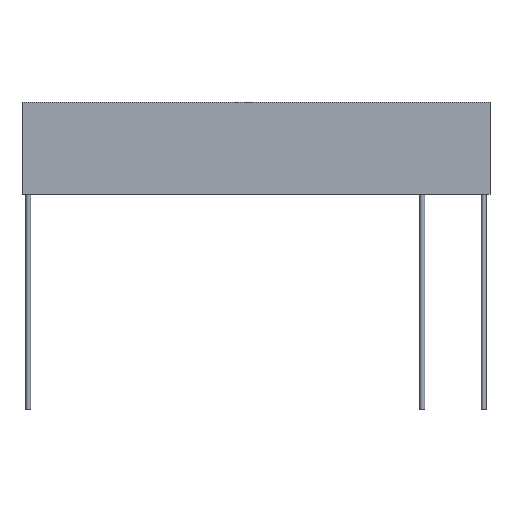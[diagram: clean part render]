
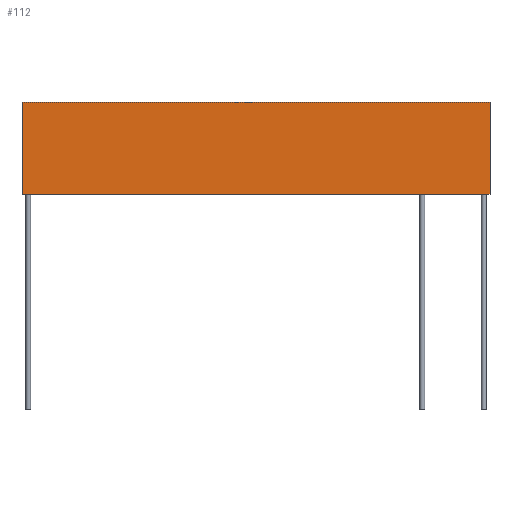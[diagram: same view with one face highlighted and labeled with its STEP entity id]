
A CAD part, front view. The second image highlights one B-rep face of the part: STEP entity #112.
In plain terms, the highlighted planar face has unit normal (0, -1, 0).
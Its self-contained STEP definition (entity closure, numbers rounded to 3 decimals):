
#112=ADVANCED_FACE('',(#214),#216,.T.);
#214=FACE_BOUND('',#215,.T.);
#215=EDGE_LOOP('',(#289,#290,#291,#292));
#216=PLANE('',#217);
#217=AXIS2_PLACEMENT_3D('',#218,#219,#220);
#218=CARTESIAN_POINT('',(-38.,-1.25,0.));
#219=DIRECTION('',(0.,-1.,0.));
#220=DIRECTION('',(1.,0.,0.));
#289=ORIENTED_EDGE('',*,*,#308,.T.);
#290=ORIENTED_EDGE('',*,*,#324,.T.);
#291=ORIENTED_EDGE('',*,*,#325,.F.);
#292=ORIENTED_EDGE('',*,*,#326,.F.);
#308=EDGE_CURVE('',#336,#334,#337,.T.);
#324=EDGE_CURVE('',#334,#362,#364,.T.);
#325=EDGE_CURVE('',#365,#362,#366,.T.);
#326=EDGE_CURVE('',#336,#365,#367,.T.);
#334=VERTEX_POINT('',#383);
#336=VERTEX_POINT('',#387);
#337=LINE('',#388,#389);
#362=VERTEX_POINT('',#450);
#364=LINE('',#454,#455);
#365=VERTEX_POINT('',#457);
#366=LINE('',#458,#459);
#367=LINE('',#461,#462);
#383=CARTESIAN_POINT('',(38.,-1.25,0.));
#387=CARTESIAN_POINT('',(-38.,-1.25,0.));
#388=CARTESIAN_POINT('',(-38.,-1.25,0.));
#389=VECTOR('',#390,1.);
#390=DIRECTION('',(1.,0.,0.));
#450=CARTESIAN_POINT('',(38.,-1.25,15.));
#454=CARTESIAN_POINT('',(38.,-1.25,0.));
#455=VECTOR('',#456,1.);
#456=DIRECTION('',(0.,0.,1.));
#457=CARTESIAN_POINT('',(-38.,-1.25,15.));
#458=CARTESIAN_POINT('',(-38.,-1.25,15.));
#459=VECTOR('',#460,1.);
#460=DIRECTION('',(1.,0.,0.));
#461=CARTESIAN_POINT('',(-38.,-1.25,0.));
#462=VECTOR('',#463,1.);
#463=DIRECTION('',(0.,0.,1.));
